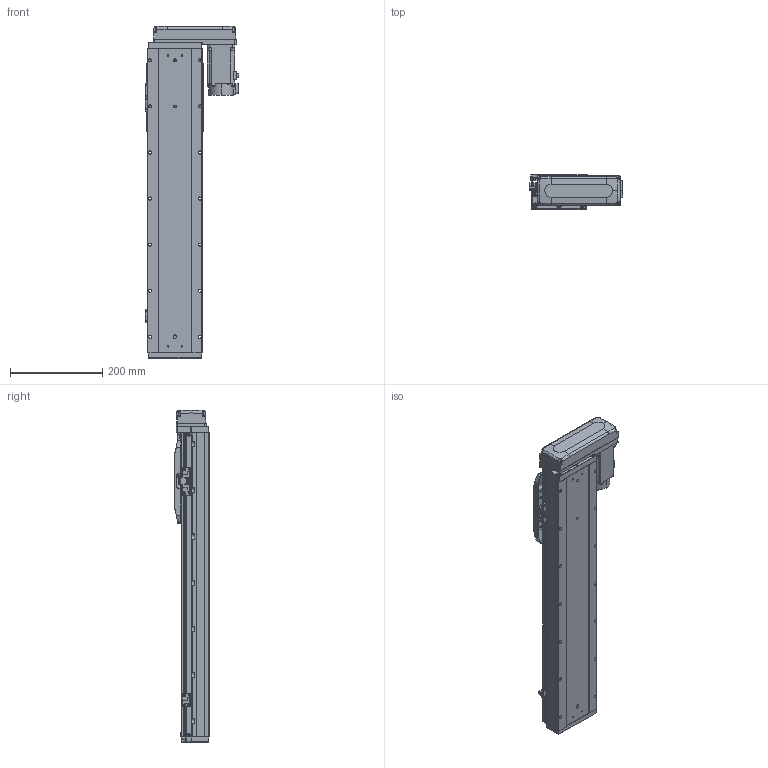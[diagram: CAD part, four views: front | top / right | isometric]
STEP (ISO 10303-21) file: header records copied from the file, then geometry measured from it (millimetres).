
FILE_DESCRIPTION (( 'STEP AP203' ), '1' );
FILE_NAME ('GTH12-450-BL-M40-C4.step', '2025-07-16T03:41:21', ( '' ), ( '' ), 'SwSTEP 2.0', 'SolidWorks 2023', '' );
FILE_SCHEMA (( 'CONFIG_CONTROL_DESIGN' ));
Length unit declared in the file: millimetre
Products named in the file (17): GBT 70.1-M5×16; GTH120-004; GTH120-027-1_GTH120-027-2; GTH120-006; GTH12-450-BL-M40-C4; GTH120-003; 感应器总成右; GTH120-001_450; GTH80-022; GTH120-013; GTH80-028; hg-kn43j_-s100_; GBT 70.1-M3×6; 感应器总成左; GBT 70.3-M3×8; CTHA86-033_M40B; BTH-M3X5X6
Assembly tree (38 placements, depth 2):
  GTH12-450-BL-M40-C4
    GTH120-001_450
    GTH120-003
    GTH120-006
    GTH120-004
    GTH120-013
    GBT 70.1-M3×6  x2
    GBT 70.1-M5×16  x10
    GBT 70.3-M3×8  x4
    GTH80-022
    GTH80-028  x2
    BTH-M3X5X6  x8
    hg-kn43j_-s100_
    CTHA86-033_M40B
    GTH120-027-1_GTH120-027-2
    感应器总成右  x2
    感应器总成左
Bounding box: 203.5 x 76 x 720.5 mm (x, y, z)
Volume: 5550859.2 mm3; surface area: 550881.3 mm2
Topology: 55 solids, 55 shells, 2359 faces, 5528 edges, 3405 vertices
Faces by surface type: plane 1212, cylinder 675, cone 296, torus 162, sphere 8, bspline 6
Entity records: 51350 total; most frequent: CARTESIAN_POINT 8790, DIRECTION 8679, ORIENTED_EDGE 8048, EDGE_CURVE 4024, AXIS2_PLACEMENT_3D 3027, LINE 2625, VECTOR 2625, VERTEX_POINT 2538
